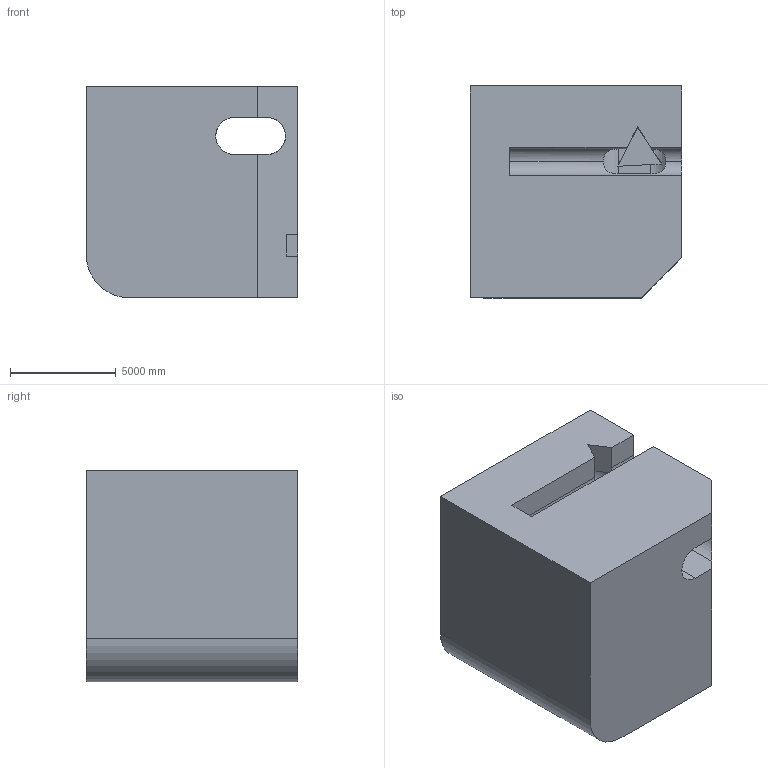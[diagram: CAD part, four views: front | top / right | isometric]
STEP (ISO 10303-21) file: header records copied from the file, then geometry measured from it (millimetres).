
FILE_DESCRIPTION (( 'STEP AP203' ), '1' );
FILE_NAME ('856.STEP', '2022-07-29T13:45:08', ( 'user' ), ( '' ), 'SwSTEP 2.0', 'SolidWorks 2021', '' );
FILE_SCHEMA (( 'CONFIG_CONTROL_DESIGN' ));
Length unit declared in the file: centimetre
Products named in the file (1): 856
Bounding box: 10000 x 10000 x 10000 mm (x, y, z)
Volume: 853339382428.8 mm3; surface area: 747542400.1 mm2
Topology: 1 solids, 1 shells, 42 faces, 132 edges, 88 vertices
Faces by surface type: plane 34, cylinder 8
Entity records: 1799 total; most frequent: CARTESIAN_POINT 565, ORIENTED_EDGE 264, DIRECTION 217, EDGE_CURVE 132, LINE 105, VECTOR 105, VERTEX_POINT 88, AXIS2_PLACEMENT_3D 56
